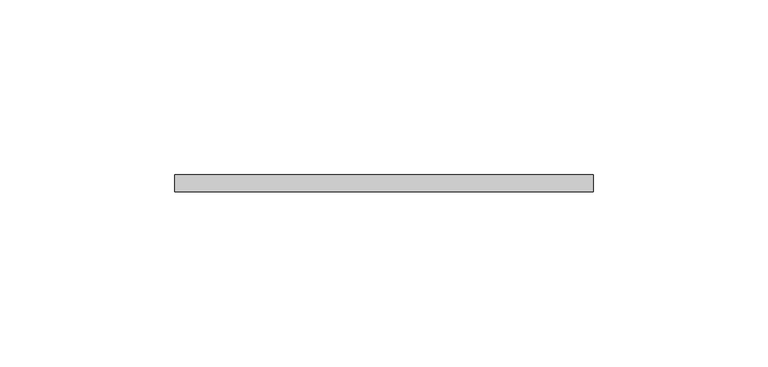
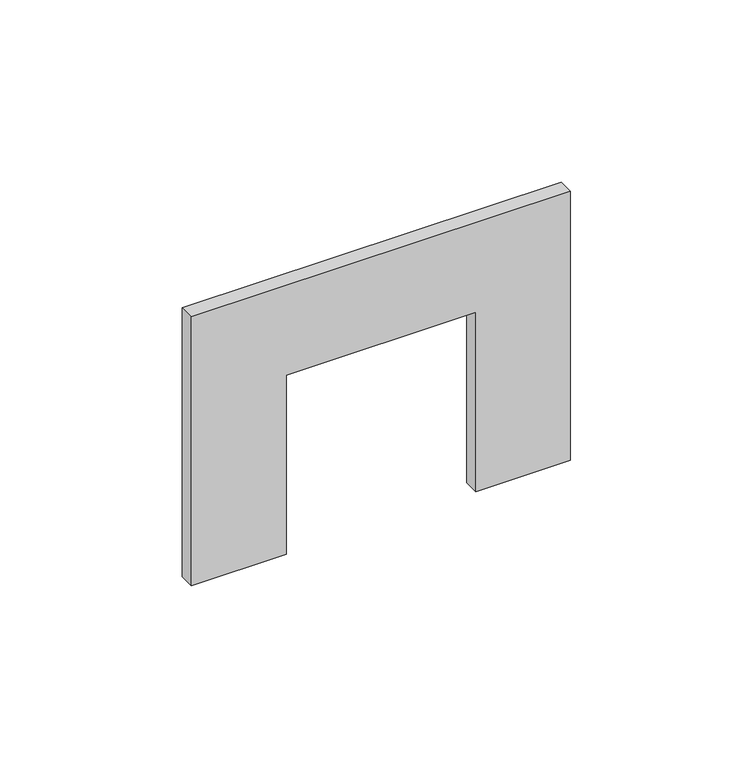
"""IFC4 building model written with IfcOpenShell, lengths in millimetres: proxy geometry, КНС_РамкаДляВводаRQM_ILC_DKC : TA-GN 60x...."""

from ifc_helpers import new_model, si_unit, frame, origin, place, context, project, spatial, polyline, outline, extrude, source, transform, mapped, element, save


def electrical_fixtures_9c062871(model_context):
    return source(origin(), model_context, "Body", "SweptSolid", [
        extrude(outline(polyline([(90.0, -60.0), (0.0, -60.0), (0.0, -30.0), (60.0, -30.0), (60.0, 30.0), (0.0, 30.0), (0.0, 60.0), (90.0, 60.0), (90.0, -60.0)])), frame((0.0, -5.0, 0.0), z_axis=(0.0, 1.0, 0.0), x_axis=(0.0, 0.0, 1.0)), (0.0, 0.0, 1.0), 5.0),
    ])


if __name__ == "__main__":
    model = new_model("IFC4")
    model_context = context("Model", 3, world=origin())
    ifc_project = project(units=[si_unit("LENGTHUNIT", "METRE", prefix="MILLI")], contexts=[model_context])
    site = spatial("IfcSite", under=ifc_project)
    building = spatial("IfcBuilding", under=site)
    placement = place(None, origin())
    electrical_fixtures_shape = electrical_fixtures_9c062871(model_context)
    element("IfcBuildingElementProxy", 1, Name="КНС_РамкаДляВводаRQM_ILC_DKC : TA-GN 60x...", ObjectType="КНС_РамкаДляВводаRQM_ILC_DKC : TA-GN 60x...", at=placement, inside=building, context=model_context, shape_type="MappedRepresentation", body=[
        mapped(electrical_fixtures_shape, transform((0.0, 0.0, 0.0), x_axis=(1.0, 0.0, 0.0), y_axis=(0.0, 1.0, 0.0), z_axis=(0.0, 0.0, 1.0))),
    ])
    save(model, "model.ifc")
